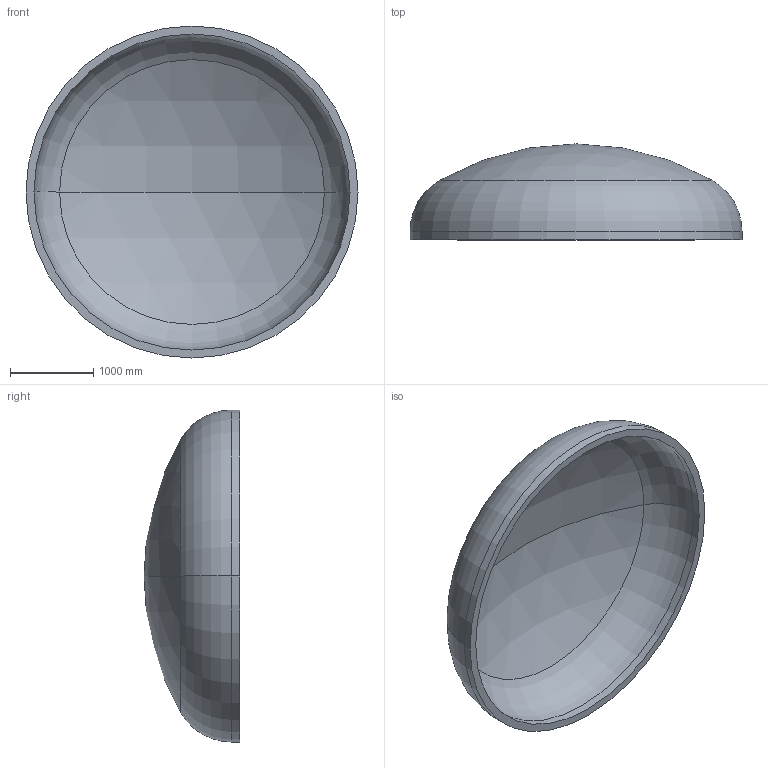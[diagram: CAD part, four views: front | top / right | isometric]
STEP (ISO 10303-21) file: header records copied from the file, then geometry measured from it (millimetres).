
FILE_DESCRIPTION (( 'STEP AP203' ), '1' );
FILE_NAME ('DIN 28013 Korbbogenform_-_Boden DIN 28013 - 4000 x 100 - I - s=96.step', '2016-07-01T22:47:03', ( '' ), ( '' ), 'SwSTEP 2.0', 'SolidWorks 2013', '' );
FILE_SCHEMA (( 'CONFIG_CONTROL_DESIGN' ));
Length unit declared in the file: millimetre
Products named in the file (1): DIN 28013 Korbbogenform_-_Boden DIN 28013 - 4000 x 100 - I - s=96
Bounding box: 4000 x 1155.31 x 4000 mm (x, y, z)
Volume: 1736209539.7 mm3; surface area: 37367740.1 mm2
Topology: 1 solids, 1 shells, 13 faces, 24 edges, 14 vertices
Faces by surface type: torus 4, cylinder 4, sphere 4, plane 1
Entity records: 407 total; most frequent: DIRECTION 72, CARTESIAN_POINT 52, ORIENTED_EDGE 48, AXIS2_PLACEMENT_3D 34, EDGE_CURVE 24, CIRCLE 20, EDGE_LOOP 14, VERTEX_POINT 14
